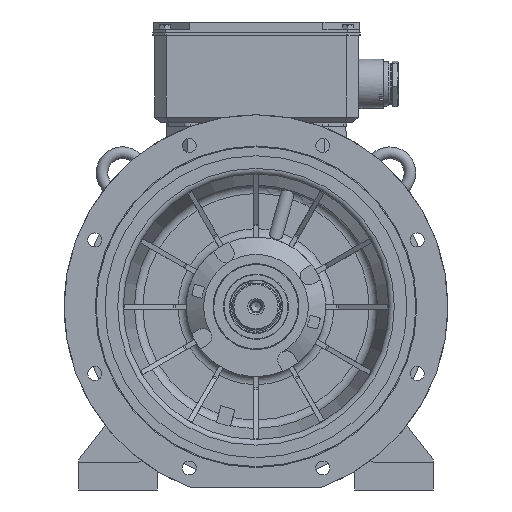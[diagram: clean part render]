
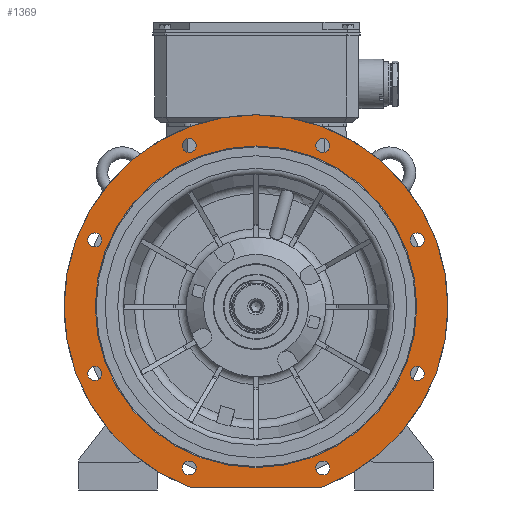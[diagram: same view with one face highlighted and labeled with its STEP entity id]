
A CAD part, front view. The second image highlights one B-rep face of the part: STEP entity #1369.
In plain terms, the highlighted planar face has unit normal (0, -1, 0).
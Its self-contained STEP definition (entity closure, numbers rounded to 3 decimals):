
#1369 = ADVANCED_FACE( '', ( #4001, #4002, #4003, #4004, #4005, #4006, #4007, #4008, #4009, #4010 ), #4011, .F. );
#4001 = FACE_BOUND( '', #11149, .T. );
#4002 = FACE_BOUND( '', #11150, .T. );
#4003 = FACE_BOUND( '', #11151, .T. );
#4004 = FACE_BOUND( '', #11152, .T. );
#4005 = FACE_BOUND( '', #11153, .T. );
#4006 = FACE_BOUND( '', #11154, .T. );
#4007 = FACE_BOUND( '', #11155, .T. );
#4008 = FACE_BOUND( '', #11156, .T. );
#4009 = FACE_BOUND( '', #11157, .T. );
#4010 = FACE_OUTER_BOUND( '', #11158, .T. );
#4011 = PLANE( '', #11159 );
#11149 = EDGE_LOOP( '', ( #20269 ) );
#11150 = EDGE_LOOP( '', ( #20270 ) );
#11151 = EDGE_LOOP( '', ( #20271 ) );
#11152 = EDGE_LOOP( '', ( #20272 ) );
#11153 = EDGE_LOOP( '', ( #20273 ) );
#11154 = EDGE_LOOP( '', ( #20274 ) );
#11155 = EDGE_LOOP( '', ( #20275 ) );
#11156 = EDGE_LOOP( '', ( #20276 ) );
#11157 = EDGE_LOOP( '', ( #20277 ) );
#11158 = EDGE_LOOP( '', ( #20278, #20279, #20280, #20281 ) );
#11159 = AXIS2_PLACEMENT_3D( '', #20282, #20283, #20284 );
#20269 = ORIENTED_EDGE( '', *, *, #26256, .F. );
#20270 = ORIENTED_EDGE( '', *, *, #26258, .F. );
#20271 = ORIENTED_EDGE( '', *, *, #26260, .F. );
#20272 = ORIENTED_EDGE( '', *, *, #26262, .F. );
#20273 = ORIENTED_EDGE( '', *, *, #26264, .F. );
#20274 = ORIENTED_EDGE( '', *, *, #26266, .F. );
#20275 = ORIENTED_EDGE( '', *, *, #26268, .F. );
#20276 = ORIENTED_EDGE( '', *, *, #26270, .F. );
#20277 = ORIENTED_EDGE( '', *, *, #26739, .F. );
#20278 = ORIENTED_EDGE( '', *, *, #24656, .T. );
#20279 = ORIENTED_EDGE( '', *, *, #26471, .F. );
#20280 = ORIENTED_EDGE( '', *, *, #24653, .T. );
#20281 = ORIENTED_EDGE( '', *, *, #24659, .F. );
#20282 = CARTESIAN_POINT( '', ( 0., -104.997, 276.4 ) );
#20283 = DIRECTION( '', ( 0., 1., 0. ) );
#20284 = DIRECTION( '', ( 0., 0., 1. ) );
#24653 = EDGE_CURVE( '', #29048, #29049, #29050, .F. );
#24656 = EDGE_CURVE( '', #29053, #29054, #29055, .F. );
#24659 = EDGE_CURVE( '', #29053, #29049, #29058, .T. );
#26256 = EDGE_CURVE( '', #31833, #31833, #31834, .T. );
#26258 = EDGE_CURVE( '', #31837, #31837, #31838, .T. );
#26260 = EDGE_CURVE( '', #31841, #31841, #31842, .T. );
#26262 = EDGE_CURVE( '', #31845, #31845, #31846, .T. );
#26264 = EDGE_CURVE( '', #31849, #31849, #31850, .T. );
#26266 = EDGE_CURVE( '', #31853, #31853, #31854, .T. );
#26268 = EDGE_CURVE( '', #31857, #31857, #31858, .T. );
#26270 = EDGE_CURVE( '', #31861, #31861, #31862, .T. );
#26471 = EDGE_CURVE( '', #29048, #29054, #32205, .T. );
#26739 = EDGE_CURVE( '', #32622, #32622, #32623, .T. );
#29048 = VERTEX_POINT( '', #37671 );
#29049 = VERTEX_POINT( '', #37672 );
#29050 = CIRCLE( '', #37673, 3. );
#29053 = VERTEX_POINT( '', #37678 );
#29054 = VERTEX_POINT( '', #37679 );
#29055 = CIRCLE( '', #37680, 3. );
#29058 = CIRCLE( '', #37685, 330. );
#31833 = VERTEX_POINT( '', #45082 );
#31834 = CIRCLE( '', #45083, 12. );
#31837 = VERTEX_POINT( '', #45086 );
#31838 = CIRCLE( '', #45087, 12. );
#31841 = VERTEX_POINT( '', #45090 );
#31842 = CIRCLE( '', #45091, 12. );
#31845 = VERTEX_POINT( '', #45094 );
#31846 = CIRCLE( '', #45095, 12. );
#31849 = VERTEX_POINT( '', #45098 );
#31850 = CIRCLE( '', #45099, 12. );
#31853 = VERTEX_POINT( '', #45102 );
#31854 = CIRCLE( '', #45103, 12. );
#31857 = VERTEX_POINT( '', #45106 );
#31858 = CIRCLE( '', #45107, 12. );
#31861 = VERTEX_POINT( '', #45110 );
#31862 = CIRCLE( '', #45111, 12. );
#32205 = LINE( '', #45813, #45814 );
#32622 = VERTEX_POINT( '', #47651 );
#32623 = CIRCLE( '', #47652, 276.4 );
#37671 = CARTESIAN_POINT( '', ( 112.606, -104.997, -310. ) );
#37672 = CARTESIAN_POINT( '', ( 113.639, -104.997, -309.817 ) );
#37673 = AXIS2_PLACEMENT_3D( '', #50579, #50580, #50581 );
#37678 = CARTESIAN_POINT( '', ( -113.639, -104.997, -309.817 ) );
#37679 = CARTESIAN_POINT( '', ( -112.606, -104.997, -310. ) );
#37680 = AXIS2_PLACEMENT_3D( '', #50584, #50585, #50586 );
#37685 = AXIS2_PLACEMENT_3D( '', #50589, #50590, #50591 );
#45082 = CARTESIAN_POINT( '', ( -265.164, -104.997, 114.805 ) );
#45083 = AXIS2_PLACEMENT_3D( '', #52886, #52887, #52888 );
#45086 = CARTESIAN_POINT( '', ( -265.164, -104.997, -114.805 ) );
#45087 = AXIS2_PLACEMENT_3D( '', #52892, #52893, #52894 );
#45090 = CARTESIAN_POINT( '', ( -102.805, -104.997, -277.164 ) );
#45091 = AXIS2_PLACEMENT_3D( '', #52898, #52899, #52900 );
#45094 = CARTESIAN_POINT( '', ( 126.805, -104.997, -277.164 ) );
#45095 = AXIS2_PLACEMENT_3D( '', #52904, #52905, #52906 );
#45098 = CARTESIAN_POINT( '', ( 289.164, -104.997, -114.805 ) );
#45099 = AXIS2_PLACEMENT_3D( '', #52910, #52911, #52912 );
#45102 = CARTESIAN_POINT( '', ( 289.164, -104.997, 114.805 ) );
#45103 = AXIS2_PLACEMENT_3D( '', #52916, #52917, #52918 );
#45106 = CARTESIAN_POINT( '', ( 126.805, -104.997, 277.164 ) );
#45107 = AXIS2_PLACEMENT_3D( '', #52922, #52923, #52924 );
#45110 = CARTESIAN_POINT( '', ( -102.805, -104.997, 277.164 ) );
#45111 = AXIS2_PLACEMENT_3D( '', #52928, #52929, #52930 );
#45813 = CARTESIAN_POINT( '', ( -113.137, -104.997, -310. ) );
#45814 = VECTOR( '', #53235, 1000. );
#47651 = CARTESIAN_POINT( '', ( 0., -104.997, -276.4 ) );
#47652 = AXIS2_PLACEMENT_3D( '', #53545, #53546, #53547 );
#50579 = CARTESIAN_POINT( '', ( 112.606, -104.997, -307. ) );
#50580 = DIRECTION( '', ( 0., 1., 0. ) );
#50581 = DIRECTION( '', ( 0., 0., 1. ) );
#50584 = CARTESIAN_POINT( '', ( -112.606, -104.997, -307. ) );
#50585 = DIRECTION( '', ( 0., 1., 0. ) );
#50586 = DIRECTION( '', ( 0., 0., 1. ) );
#50589 = CARTESIAN_POINT( '', ( 0., -104.997, 0. ) );
#50590 = DIRECTION( '', ( 0., 1., 0. ) );
#50591 = DIRECTION( '', ( 0., 0., 1. ) );
#52886 = CARTESIAN_POINT( '', ( -277.164, -104.997, 114.805 ) );
#52887 = DIRECTION( '', ( 0., -1., 0. ) );
#52888 = DIRECTION( '', ( 1., 0., 0. ) );
#52892 = CARTESIAN_POINT( '', ( -277.164, -104.997, -114.805 ) );
#52893 = DIRECTION( '', ( 0., -1., 0. ) );
#52894 = DIRECTION( '', ( 1., 0., 0. ) );
#52898 = CARTESIAN_POINT( '', ( -114.805, -104.997, -277.164 ) );
#52899 = DIRECTION( '', ( 0., -1., 0. ) );
#52900 = DIRECTION( '', ( 1., 0., 0. ) );
#52904 = CARTESIAN_POINT( '', ( 114.805, -104.997, -277.164 ) );
#52905 = DIRECTION( '', ( 0., -1., 0. ) );
#52906 = DIRECTION( '', ( 1., 0., 0. ) );
#52910 = CARTESIAN_POINT( '', ( 277.164, -104.997, -114.805 ) );
#52911 = DIRECTION( '', ( 0., -1., 0. ) );
#52912 = DIRECTION( '', ( 1., 0., 0. ) );
#52916 = CARTESIAN_POINT( '', ( 277.164, -104.997, 114.805 ) );
#52917 = DIRECTION( '', ( 0., -1., 0. ) );
#52918 = DIRECTION( '', ( 1., 0., 0. ) );
#52922 = CARTESIAN_POINT( '', ( 114.805, -104.997, 277.164 ) );
#52923 = DIRECTION( '', ( 0., -1., 0. ) );
#52924 = DIRECTION( '', ( 1., 0., 0. ) );
#52928 = CARTESIAN_POINT( '', ( -114.805, -104.997, 277.164 ) );
#52929 = DIRECTION( '', ( 0., -1., 0. ) );
#52930 = DIRECTION( '', ( 1., 0., 0. ) );
#53235 = DIRECTION( '', ( -1., 0., 0. ) );
#53545 = CARTESIAN_POINT( '', ( 0., -104.997, 0. ) );
#53546 = DIRECTION( '', ( 0., -1., 0. ) );
#53547 = DIRECTION( '', ( 0., 0., -1. ) );
